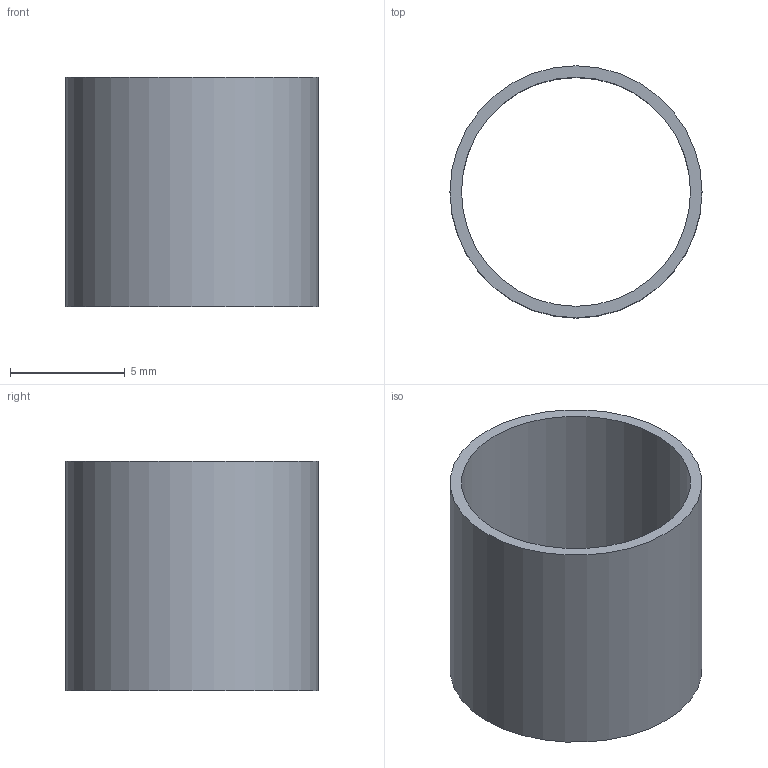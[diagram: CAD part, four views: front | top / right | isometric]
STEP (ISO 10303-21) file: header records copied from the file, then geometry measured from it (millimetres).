
FILE_DESCRIPTION(/* description */ ('Rubber-Ring Bushing'),/* implementation_level */ '2;1');
FILE_NAME(/* name */ 'Z:\Werkstatt Server\Projekte\Atlas\Entwicklung u. Konstruktion\Konstruktion\CAD Daten\ITkPixToolV2.0\Stencil Tool\Spatula\ITPTv2.03.01.03.stp',/* time_stamp */ '2021-08-06T14:08:21+02:00',/* author */ ('Tim Kanngießer'),/* organization */ (''),/* preprocessor_version */ 'ST-DEVELOPER v18.1',/* originating_system */ 'Autodesk Inventor 2022',/* authorisation */ '');
FILE_SCHEMA (('AUTOMOTIVE_DESIGN { 1 0 10303 214 3 1 1 }'));
Length unit declared in the file: millimetre
Products named in the file (1): ITPTv2.03.01.03
Bounding box: 11 x 11 x 10 mm (x, y, z)
Volume: 164.9 mm3; surface area: 692.7 mm2
Topology: 1 solids, 1 shells, 4 faces, 6 edges, 4 vertices
Faces by surface type: cylinder 2, plane 2
Full cylindrical faces by diameter (mm): 10 x1, 11 x1
Entity records: 139 total; most frequent: DIRECTION 20, CARTESIAN_POINT 15, ORIENTED_EDGE 12, AXIS2_PLACEMENT_3D 9, EDGE_LOOP 6, EDGE_CURVE 6, FACE_OUTER_BOUND 4, CIRCLE 4
